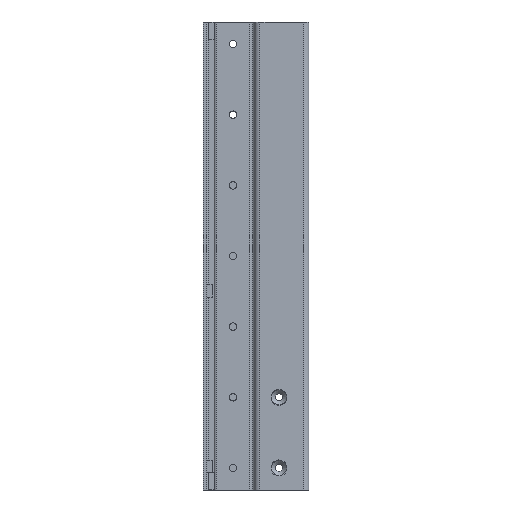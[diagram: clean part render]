
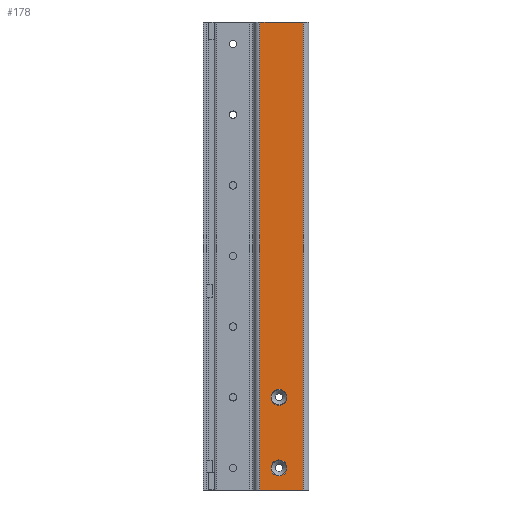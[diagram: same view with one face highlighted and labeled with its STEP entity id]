
A CAD part, left-side view. The second image highlights one B-rep face of the part: STEP entity #178.
In plain terms, the highlighted planar face has unit normal (-1, 0, 0).
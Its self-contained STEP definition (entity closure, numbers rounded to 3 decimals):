
#178=ADVANCED_FACE('',(#536,#537,#538),#539,.T.);
#536=FACE_BOUND('',#1090,.T.);
#537=FACE_BOUND('',#1091,.T.);
#538=FACE_OUTER_BOUND('',#1092,.T.);
#539=PLANE('',#1093);
#1090=EDGE_LOOP('',(#2193,#2194));
#1091=EDGE_LOOP('',(#2195,#2196));
#1092=EDGE_LOOP('',(#2197,#2198,#2199,#2200));
#1093=AXIS2_PLACEMENT_3D('',#2201,#2202,#2203);
#2193=ORIENTED_EDGE('',*,*,#3586,.T.);
#2194=ORIENTED_EDGE('',*,*,#3806,.T.);
#2195=ORIENTED_EDGE('',*,*,#3582,.T.);
#2196=ORIENTED_EDGE('',*,*,#3808,.T.);
#2197=ORIENTED_EDGE('',*,*,#3834,.T.);
#2198=ORIENTED_EDGE('',*,*,#3835,.F.);
#2199=ORIENTED_EDGE('',*,*,#3836,.T.);
#2200=ORIENTED_EDGE('',*,*,#3832,.T.);
#2201=CARTESIAN_POINT('',(-26.,-3.,0.0));
#2202=DIRECTION('',(-1.0,0.0,0.0));
#2203=DIRECTION('',(0.0,-1.0,0.0));
#3582=EDGE_CURVE('',#4270,#4267,#4271,.T.);
#3586=EDGE_CURVE('',#4278,#4275,#4279,.T.);
#3806=EDGE_CURVE('',#4275,#4278,#4644,.T.);
#3808=EDGE_CURVE('',#4267,#4270,#4646,.T.);
#3832=EDGE_CURVE('',#4687,#4685,#4688,.T.);
#3834=EDGE_CURVE('',#4685,#4690,#4691,.T.);
#3835=EDGE_CURVE('',#4692,#4690,#4693,.T.);
#3836=EDGE_CURVE('',#4692,#4687,#4694,.T.);
#4267=VERTEX_POINT('',#5401);
#4270=VERTEX_POINT('',#5405);
#4271=CIRCLE('',#5406,9.0);
#4275=VERTEX_POINT('',#5411);
#4278=VERTEX_POINT('',#5415);
#4279=CIRCLE('',#5416,9.0);
#4644=CIRCLE('',#5958,9.0);
#4646=CIRCLE('',#5960,9.0);
#4685=VERTEX_POINT('',#6017);
#4687=VERTEX_POINT('',#6019);
#4688=LINE('',#6020,#6021);
#4690=VERTEX_POINT('',#6023);
#4691=LINE('',#6024,#6025);
#4692=VERTEX_POINT('',#6026);
#4693=LINE('',#6027,#6028);
#4694=LINE('',#6029,#6030);
#5401=CARTESIAN_POINT('',(-26.,0.,34.0));
#5405=CARTESIAN_POINT('',(-26.,0.,16.0));
#5406=AXIS2_PLACEMENT_3D('',#7002,#7003,#7004);
#5411=CARTESIAN_POINT('',(-26.,0.,114.0));
#5415=CARTESIAN_POINT('',(-26.,0.,96.0));
#5416=AXIS2_PLACEMENT_3D('',#7010,#7011,#7012);
#5958=AXIS2_PLACEMENT_3D('',#7316,#7317,#7318);
#5960=AXIS2_PLACEMENT_3D('',#7322,#7323,#7324);
#6017=CARTESIAN_POINT('',(-26.,-27.5,530.0));
#6019=CARTESIAN_POINT('',(-26.,-27.5,0.0));
#6020=CARTESIAN_POINT('',(-26.,-27.5,0.0));
#6021=VECTOR('',#7358,1.0);
#6023=CARTESIAN_POINT('',(-26.,21.5,530.0));
#6024=CARTESIAN_POINT('',(-26.,21.5,530.0));
#6025=VECTOR('',#7362,1.0);
#6026=CARTESIAN_POINT('',(-26.,21.5,0.0));
#6027=CARTESIAN_POINT('',(-26.,21.5,0.0));
#6028=VECTOR('',#7363,1.0);
#6029=CARTESIAN_POINT('',(-26.,21.5,0.0));
#6030=VECTOR('',#7364,1.0);
#7002=CARTESIAN_POINT('',(-26.,0.0,25.0));
#7003=DIRECTION('',(1.0,0.0,-0.0));
#7004=DIRECTION('',(0.0,0.0,1.0));
#7010=CARTESIAN_POINT('',(-26.,0.0,105.0));
#7011=DIRECTION('',(1.0,0.0,-0.0));
#7012=DIRECTION('',(0.0,0.0,1.0));
#7316=CARTESIAN_POINT('',(-26.,0.0,105.0));
#7317=DIRECTION('',(1.0,0.0,-0.0));
#7318=DIRECTION('',(0.0,0.0,1.0));
#7322=CARTESIAN_POINT('',(-26.,0.0,25.0));
#7323=DIRECTION('',(1.0,0.0,-0.0));
#7324=DIRECTION('',(0.0,0.0,1.0));
#7358=DIRECTION('',(0.0,0.0,1.0));
#7362=DIRECTION('',(0.0,1.0,0.0));
#7363=DIRECTION('',(0.0,0.0,1.0));
#7364=DIRECTION('',(0.0,-1.0,0.0));
